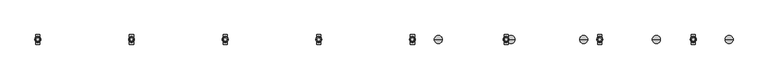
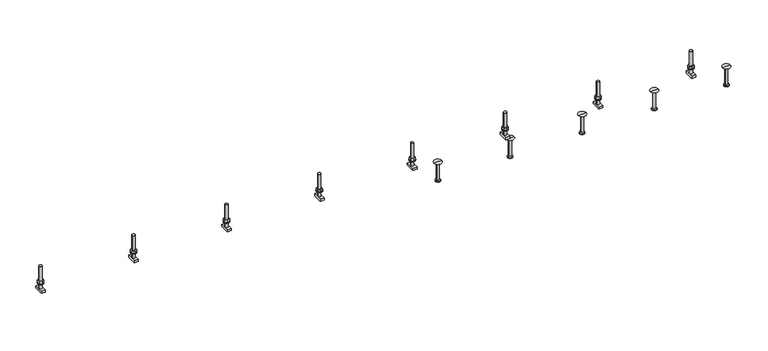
"""IFC4 building model written with IfcOpenShell, lengths in millimetres: fastener geometry, JTA-W JORDAHL® AnchorChannels : JTA-W L=3000 mm."""

from ifc_helpers import new_model, si_unit, point, frame, frame_2d, origin, place, context, project, spatial, polyline, circle_curve, trimmed, segment, composite_curve, outline, extrude, source, transform, mapped, element, save
from ifc_brep_helpers import plane_surface, cylinder_surface, revolved_surface, advanced_brep


def fastener_619edde3(model_context):
    return source(origin(), model_context, "Body", "SolidModel", [
        extrude(outline(polyline([(2608.3333333, 9.2376043), (2616.3333333, 4.6188022), (2616.3333333, -4.6188022), (2608.3333333, -9.2376043), (2600.3333333, -4.6188022), (2600.3333333, 4.6188022), (2608.3333333, 9.2376043)]), holes=[composite_curve([segment(trimmed(circle_curve(frame_2d((2608.3333333, 0.0)), 5.0), [point((2603.3333333, 0.0))], [point((2613.3333333, 0.0))], True, "CARTESIAN"), True, "CONTINUOUS"), segment(trimmed(circle_curve(frame_2d((2608.3333333, 0.0)), 5.0), [point((2613.3333333, 0.0))], [point((2603.3333333, 0.0))], True, "CARTESIAN"), True, "CONTINUOUS")], self_intersect=False)]), frame((0.0, 0.0, 17.0), z_axis=(0.0, 0.0, 1.0), x_axis=(1.0, 0.0, 0.0)), (0.0, 0.0, 1.0), 8.4),
        extrude(outline(composite_curve([segment(trimmed(circle_curve(frame_2d((2608.3333333, 0.0)), 10.0), [point((2598.3333333, 0.0))], [point((2618.3333333, 0.0))], False, "CARTESIAN"), True, "CONTINUOUS"), segment(trimmed(circle_curve(frame_2d((2608.3333333, 0.0)), 10.0), [point((2618.3333333, 0.0))], [point((2598.3333333, 0.0))], False, "CARTESIAN"), True, "CONTINUOUS")], self_intersect=False), holes=[composite_curve([segment(trimmed(circle_curve(frame_2d((2608.3333333, 0.0)), 5.25), [point((2603.0833333, 0.0))], [point((2613.5833333, 0.0))], True, "CARTESIAN"), True, "CONTINUOUS"), segment(trimmed(circle_curve(frame_2d((2608.3333333, 0.0)), 5.25), [point((2613.5833333, 0.0))], [point((2603.0833333, 0.0))], True, "CARTESIAN"), True, "CONTINUOUS")], self_intersect=False)]), frame((0.0, 0.0, 15.0), z_axis=(0.0, 0.0, 1.0), x_axis=(1.0, 0.0, 0.0)), (0.0, 0.0, 1.0), 2.0),
        extrude(outline(polyline([(2291.6666667, 9.2376043), (2299.6666667, 4.6188022), (2299.6666667, -4.6188022), (2291.6666667, -9.2376043), (2283.6666667, -4.6188022), (2283.6666667, 4.6188022), (2291.6666667, 9.2376043)]), holes=[composite_curve([segment(trimmed(circle_curve(frame_2d((2291.6666667, 0.0)), 5.0), [point((2286.6666667, 0.0))], [point((2296.6666667, 0.0))], True, "CARTESIAN"), True, "CONTINUOUS"), segment(trimmed(circle_curve(frame_2d((2291.6666667, 0.0)), 5.0), [point((2296.6666667, 0.0))], [point((2286.6666667, 0.0))], True, "CARTESIAN"), True, "CONTINUOUS")], self_intersect=False)]), frame((0.0, 0.0, 17.0), z_axis=(0.0, 0.0, 1.0), x_axis=(1.0, 0.0, 0.0)), (0.0, 0.0, 1.0), 8.4),
        extrude(outline(composite_curve([segment(trimmed(circle_curve(frame_2d((2291.6666667, 0.0)), 10.0), [point((2281.6666667, 0.0))], [point((2301.6666667, 0.0))], False, "CARTESIAN"), True, "CONTINUOUS"), segment(trimmed(circle_curve(frame_2d((2291.6666667, 0.0)), 10.0), [point((2301.6666667, 0.0))], [point((2281.6666667, 0.0))], False, "CARTESIAN"), True, "CONTINUOUS")], self_intersect=False), holes=[composite_curve([segment(trimmed(circle_curve(frame_2d((2291.6666667, 0.0)), 5.25), [point((2286.4166667, 0.0))], [point((2296.9166667, 0.0))], True, "CARTESIAN"), True, "CONTINUOUS"), segment(trimmed(circle_curve(frame_2d((2291.6666667, 0.0)), 5.25), [point((2296.9166667, 0.0))], [point((2286.4166667, 0.0))], True, "CARTESIAN"), True, "CONTINUOUS")], self_intersect=False)]), frame((0.0, 0.0, 15.0), z_axis=(0.0, 0.0, 1.0), x_axis=(1.0, 0.0, 0.0)), (0.0, 0.0, 1.0), 2.0),
        extrude(outline(polyline([(1975.0, 9.2376043), (1983.0, 4.6188022), (1983.0, -4.6188022), (1975.0, -9.2376043), (1967.0, -4.6188022), (1967.0, 4.6188022), (1975.0, 9.2376043)]), holes=[composite_curve([segment(trimmed(circle_curve(frame_2d((1975.0, 0.0)), 5.0), [point((1970.0, 0.0))], [point((1980.0, 0.0))], True, "CARTESIAN"), True, "CONTINUOUS"), segment(trimmed(circle_curve(frame_2d((1975.0, 0.0)), 5.0), [point((1980.0, 0.0))], [point((1970.0, 0.0))], True, "CARTESIAN"), True, "CONTINUOUS")], self_intersect=False)]), frame((0.0, 0.0, 17.0), z_axis=(0.0, 0.0, 1.0), x_axis=(1.0, 0.0, 0.0)), (0.0, 0.0, 1.0), 8.4),
        extrude(outline(composite_curve([segment(trimmed(circle_curve(frame_2d((1975.0, 0.0)), 10.0), [point((1965.0, 0.0))], [point((1985.0, 0.0))], False, "CARTESIAN"), True, "CONTINUOUS"), segment(trimmed(circle_curve(frame_2d((1975.0, 0.0)), 10.0), [point((1985.0, 0.0))], [point((1965.0, 0.0))], False, "CARTESIAN"), True, "CONTINUOUS")], self_intersect=False), holes=[composite_curve([segment(trimmed(circle_curve(frame_2d((1975.0, 0.0)), 5.25), [point((1969.75, 0.0))], [point((1980.25, 0.0))], True, "CARTESIAN"), True, "CONTINUOUS"), segment(trimmed(circle_curve(frame_2d((1975.0, 0.0)), 5.25), [point((1980.25, 0.0))], [point((1969.75, 0.0))], True, "CARTESIAN"), True, "CONTINUOUS")], self_intersect=False)]), frame((0.0, 0.0, 15.0), z_axis=(0.0, 0.0, 1.0), x_axis=(1.0, 0.0, 0.0)), (0.0, 0.0, 1.0), 2.0),
        extrude(outline(polyline([(1658.3333333, 9.2376043), (1666.3333333, 4.6188022), (1666.3333333, -4.6188022), (1658.3333333, -9.2376043), (1650.3333333, -4.6188022), (1650.3333333, 4.6188022), (1658.3333333, 9.2376043)]), holes=[composite_curve([segment(trimmed(circle_curve(frame_2d((1658.3333333, 0.0)), 5.0), [point((1653.3333333, 0.0))], [point((1663.3333333, 0.0))], True, "CARTESIAN"), True, "CONTINUOUS"), segment(trimmed(circle_curve(frame_2d((1658.3333333, 0.0)), 5.0), [point((1663.3333333, 0.0))], [point((1653.3333333, 0.0))], True, "CARTESIAN"), True, "CONTINUOUS")], self_intersect=False)]), frame((0.0, 0.0, 17.0), z_axis=(0.0, 0.0, 1.0), x_axis=(1.0, 0.0, 0.0)), (0.0, 0.0, 1.0), 8.4),
        extrude(outline(composite_curve([segment(trimmed(circle_curve(frame_2d((1658.3333333, 0.0)), 10.0), [point((1648.3333333, 0.0))], [point((1668.3333333, 0.0))], False, "CARTESIAN"), True, "CONTINUOUS"), segment(trimmed(circle_curve(frame_2d((1658.3333333, 0.0)), 10.0), [point((1668.3333333, 0.0))], [point((1648.3333333, 0.0))], False, "CARTESIAN"), True, "CONTINUOUS")], self_intersect=False), holes=[composite_curve([segment(trimmed(circle_curve(frame_2d((1658.3333333, 0.0)), 5.25), [point((1653.0833333, 0.0))], [point((1663.5833333, 0.0))], True, "CARTESIAN"), True, "CONTINUOUS"), segment(trimmed(circle_curve(frame_2d((1658.3333333, 0.0)), 5.25), [point((1663.5833333, 0.0))], [point((1653.0833333, 0.0))], True, "CARTESIAN"), True, "CONTINUOUS")], self_intersect=False)]), frame((0.0, 0.0, 15.0), z_axis=(0.0, 0.0, 1.0), x_axis=(1.0, 0.0, 0.0)), (0.0, 0.0, 1.0), 2.0),
        extrude(outline(polyline([(1341.6666667, 9.2376043), (1349.6666667, 4.6188022), (1349.6666667, -4.6188022), (1341.6666667, -9.2376043), (1333.6666667, -4.6188022), (1333.6666667, 4.6188022), (1341.6666667, 9.2376043)]), holes=[composite_curve([segment(trimmed(circle_curve(frame_2d((1341.6666667, 0.0)), 5.0), [point((1336.6666667, 0.0))], [point((1346.6666667, 0.0))], True, "CARTESIAN"), True, "CONTINUOUS"), segment(trimmed(circle_curve(frame_2d((1341.6666667, 0.0)), 5.0), [point((1346.6666667, 0.0))], [point((1336.6666667, 0.0))], True, "CARTESIAN"), True, "CONTINUOUS")], self_intersect=False)]), frame((0.0, 0.0, 17.0), z_axis=(0.0, 0.0, 1.0), x_axis=(1.0, 0.0, 0.0)), (0.0, 0.0, 1.0), 8.4),
        extrude(outline(composite_curve([segment(trimmed(circle_curve(frame_2d((1341.6666667, 0.0)), 10.0), [point((1331.6666667, 0.0))], [point((1351.6666667, 0.0))], False, "CARTESIAN"), True, "CONTINUOUS"), segment(trimmed(circle_curve(frame_2d((1341.6666667, 0.0)), 10.0), [point((1351.6666667, 0.0))], [point((1331.6666667, 0.0))], False, "CARTESIAN"), True, "CONTINUOUS")], self_intersect=False), holes=[composite_curve([segment(trimmed(circle_curve(frame_2d((1341.6666667, 0.0)), 5.25), [point((1336.4166667, 0.0))], [point((1346.9166667, 0.0))], True, "CARTESIAN"), True, "CONTINUOUS"), segment(trimmed(circle_curve(frame_2d((1341.6666667, 0.0)), 5.25), [point((1346.9166667, 0.0))], [point((1336.4166667, 0.0))], True, "CARTESIAN"), True, "CONTINUOUS")], self_intersect=False)]), frame((0.0, 0.0, 15.0), z_axis=(0.0, 0.0, 1.0), x_axis=(1.0, 0.0, 0.0)), (0.0, 0.0, 1.0), 2.0),
        extrude(outline(polyline([(1025.0, 9.2376043), (1033.0, 4.6188022), (1033.0, -4.6188022), (1025.0, -9.2376043), (1017.0, -4.6188022), (1017.0, 4.6188022), (1025.0, 9.2376043)]), holes=[composite_curve([segment(trimmed(circle_curve(frame_2d((1025.0, 0.0)), 5.0), [point((1020.0, 0.0))], [point((1030.0, 0.0))], True, "CARTESIAN"), True, "CONTINUOUS"), segment(trimmed(circle_curve(frame_2d((1025.0, 0.0)), 5.0), [point((1030.0, 0.0))], [point((1020.0, 0.0))], True, "CARTESIAN"), True, "CONTINUOUS")], self_intersect=False)]), frame((0.0, 0.0, 17.0), z_axis=(0.0, 0.0, 1.0), x_axis=(1.0, 0.0, 0.0)), (0.0, 0.0, 1.0), 8.4),
        extrude(outline(composite_curve([segment(trimmed(circle_curve(frame_2d((1025.0, 0.0)), 10.0), [point((1015.0, 0.0))], [point((1035.0, 0.0))], False, "CARTESIAN"), True, "CONTINUOUS"), segment(trimmed(circle_curve(frame_2d((1025.0, 0.0)), 10.0), [point((1035.0, 0.0))], [point((1015.0, 0.0))], False, "CARTESIAN"), True, "CONTINUOUS")], self_intersect=False), holes=[composite_curve([segment(trimmed(circle_curve(frame_2d((1025.0, 0.0)), 5.25), [point((1019.75, 0.0))], [point((1030.25, 0.0))], True, "CARTESIAN"), True, "CONTINUOUS"), segment(trimmed(circle_curve(frame_2d((1025.0, 0.0)), 5.25), [point((1030.25, 0.0))], [point((1019.75, 0.0))], True, "CARTESIAN"), True, "CONTINUOUS")], self_intersect=False)]), frame((0.0, 0.0, 15.0), z_axis=(0.0, 0.0, 1.0), x_axis=(1.0, 0.0, 0.0)), (0.0, 0.0, 1.0), 2.0),
        extrude(outline(polyline([(708.3333333, 9.2376043), (716.3333333, 4.6188022), (716.3333333, -4.6188022), (708.3333333, -9.2376043), (700.3333333, -4.6188022), (700.3333333, 4.6188022), (708.3333333, 9.2376043)]), holes=[composite_curve([segment(trimmed(circle_curve(frame_2d((708.3333333, 0.0)), 5.0), [point((703.3333333, 0.0))], [point((713.3333333, 0.0))], True, "CARTESIAN"), True, "CONTINUOUS"), segment(trimmed(circle_curve(frame_2d((708.3333333, 0.0)), 5.0), [point((713.3333333, 0.0))], [point((703.3333333, 0.0))], True, "CARTESIAN"), True, "CONTINUOUS")], self_intersect=False)]), frame((0.0, 0.0, 17.0), z_axis=(0.0, 0.0, 1.0), x_axis=(1.0, 0.0, 0.0)), (0.0, 0.0, 1.0), 8.4),
        extrude(outline(composite_curve([segment(trimmed(circle_curve(frame_2d((708.3333333, 0.0)), 10.0), [point((698.3333333, 0.0))], [point((718.3333333, 0.0))], False, "CARTESIAN"), True, "CONTINUOUS"), segment(trimmed(circle_curve(frame_2d((708.3333333, 0.0)), 10.0), [point((718.3333333, 0.0))], [point((698.3333333, 0.0))], False, "CARTESIAN"), True, "CONTINUOUS")], self_intersect=False), holes=[composite_curve([segment(trimmed(circle_curve(frame_2d((708.3333333, 0.0)), 5.25), [point((703.0833333, 0.0))], [point((713.5833333, 0.0))], True, "CARTESIAN"), True, "CONTINUOUS"), segment(trimmed(circle_curve(frame_2d((708.3333333, 0.0)), 5.25), [point((713.5833333, 0.0))], [point((703.0833333, 0.0))], True, "CARTESIAN"), True, "CONTINUOUS")], self_intersect=False)]), frame((0.0, 0.0, 15.0), z_axis=(0.0, 0.0, 1.0), x_axis=(1.0, 0.0, 0.0)), (0.0, 0.0, 1.0), 2.0),
        extrude(outline(polyline([(391.6666667, 9.2376043), (399.6666667, 4.6188022), (399.6666667, -4.6188022), (391.6666667, -9.2376043), (383.6666667, -4.6188022), (383.6666667, 4.6188022), (391.6666667, 9.2376043)]), holes=[composite_curve([segment(trimmed(circle_curve(frame_2d((391.6666667, 0.0)), 5.0), [point((386.6666667, 0.0))], [point((396.6666667, 0.0))], True, "CARTESIAN"), True, "CONTINUOUS"), segment(trimmed(circle_curve(frame_2d((391.6666667, 0.0)), 5.0), [point((396.6666667, 0.0))], [point((386.6666667, 0.0))], True, "CARTESIAN"), True, "CONTINUOUS")], self_intersect=False)]), frame((0.0, 0.0, 17.0), z_axis=(0.0, 0.0, 1.0), x_axis=(1.0, 0.0, 0.0)), (0.0, 0.0, 1.0), 8.4),
        extrude(outline(composite_curve([segment(trimmed(circle_curve(frame_2d((391.6666667, 0.0)), 10.0), [point((381.6666667, 0.0))], [point((401.6666667, 0.0))], False, "CARTESIAN"), True, "CONTINUOUS"), segment(trimmed(circle_curve(frame_2d((391.6666667, 0.0)), 10.0), [point((401.6666667, 0.0))], [point((381.6666667, 0.0))], False, "CARTESIAN"), True, "CONTINUOUS")], self_intersect=False), holes=[composite_curve([segment(trimmed(circle_curve(frame_2d((391.6666667, 0.0)), 5.25), [point((386.4166667, 0.0))], [point((396.9166667, 0.0))], True, "CARTESIAN"), True, "CONTINUOUS"), segment(trimmed(circle_curve(frame_2d((391.6666667, 0.0)), 5.25), [point((396.9166667, 0.0))], [point((386.4166667, 0.0))], True, "CARTESIAN"), True, "CONTINUOUS")], self_intersect=False)]), frame((0.0, 0.0, 15.0), z_axis=(0.0, 0.0, 1.0), x_axis=(1.0, 0.0, 0.0)), (0.0, 0.0, 1.0), 2.0),
        advanced_brep(
        [(2615.3333333, 16.25, -3.0), (2615.3333333, -16.25, -3.0), (2615.3333333, -16.25, -11.0), (2615.3333333, 16.25, -11.0), (2601.3333333, 16.25, -3.0), (2601.3333333, 16.25, -11.0), (2601.3333333, -16.25, -11.0), (2601.3333333, -16.25, -3.0), (2613.3333333, 0.0, -3.0), (2603.3333333, 0.0, -3.0), (2603.3333333, 0.0, 77.0), (2613.3333333, 0.0, 77.0)],
        [
            (0, 1),
            (1, 2),
            (2, 3),
            (3, 0),
            (4, 5),
            (5, 6),
            (6, 7),
            (7, 4),
            (0, 4),
            (7, 1),
            (8, 9, circle_curve(frame((2608.3333333, 0.0, -3.0), z_axis=(0.0, 0.0, -1.0), x_axis=(1.0, 0.0, 0.0)), 5.0)),
            (9, 8, circle_curve(frame((2608.3333333, 0.0, -3.0), z_axis=(0.0, 0.0, -1.0), x_axis=(1.0, 0.0, 0.0)), 5.0)),
            (6, 2),
            (5, 3),
            (10, 11, circle_curve(frame((2608.3333333, 0.0, 77.0), z_axis=(0.0, 0.0, 1.0), x_axis=(1.0, 0.0, 0.0)), 5.0)),
            (11, 10, circle_curve(frame((2608.3333333, 0.0, 77.0), z_axis=(0.0, 0.0, 1.0), x_axis=(1.0, 0.0, 0.0)), 5.0)),
            (10, 9),
            (8, 11),
        ],
        [
            plane_surface(frame((2615.3333333, -16.25, -3.0), z_axis=(1.0, 0.0, 0.0), x_axis=(0.0, -1.0, 0.0))),
            plane_surface(frame((2601.3333333, -16.25, -3.0), z_axis=(-1.0, 0.0, 0.0), x_axis=(0.0, 1.0, 0.0))),
            plane_surface(frame((2615.3333333, 16.25, -3.0), z_axis=(0.0, 0.0, 1.0), x_axis=(-1.0, 0.0, 0.0))),
            plane_surface(frame((2615.3333333, -16.25, -3.0), z_axis=(0.0, -1.0, 0.0), x_axis=(-1.0, 0.0, 0.0))),
            plane_surface(frame((2615.3333333, -16.25, -11.0), z_axis=(0.0, 0.0, -1.0), x_axis=(-1.0, 0.0, 0.0))),
            plane_surface(frame((2615.3333333, 16.25, -11.0), z_axis=(0.0, 1.0, 0.0), x_axis=(-1.0, 0.0, 0.0))),
            plane_surface(frame((2613.3333333, 0.0, 77.0), z_axis=(0.0, 0.0, 1.0), x_axis=(0.0, 1.0, 0.0))),
            cylinder_surface(frame((2608.3333333, 0.0, -3.0), z_axis=(0.0, 0.0, 1.0), x_axis=(1.0, 0.0, 0.0)), 5.0),
        ],
        [
            (0, [[1, 2, 3, 4]]),
            (1, [[5, 6, 7, 8]]),
            (2, [[-1, 9, -8, 10], [11, 12]]),
            (3, [[-2, -10, -7, 13]]),
            (4, [[-3, -13, -6, 14]]),
            (5, [[-4, -14, -5, -9]]),
            (6, [[15, 16]]),
            (7, [[-15, 17, -11, 18]]),
            (7, [[-16, -18, -12, -17]]),
        ],
    ),
        advanced_brep(
        [(2298.6666667, 16.25, -3.0), (2298.6666667, -16.25, -3.0), (2298.6666667, -16.25, -11.0), (2298.6666667, 16.25, -11.0), (2284.6666667, 16.25, -3.0), (2284.6666667, 16.25, -11.0), (2284.6666667, -16.25, -11.0), (2284.6666667, -16.25, -3.0), (2296.6666667, 0.0, -3.0), (2286.6666667, 0.0, -3.0), (2286.6666667, 0.0, 77.0), (2296.6666667, 0.0, 77.0)],
        [
            (0, 1),
            (1, 2),
            (2, 3),
            (3, 0),
            (4, 5),
            (5, 6),
            (6, 7),
            (7, 4),
            (0, 4),
            (7, 1),
            (8, 9, circle_curve(frame((2291.6666667, 0.0, -3.0), z_axis=(0.0, 0.0, -1.0), x_axis=(1.0, 0.0, 0.0)), 5.0)),
            (9, 8, circle_curve(frame((2291.6666667, 0.0, -3.0), z_axis=(0.0, 0.0, -1.0), x_axis=(1.0, 0.0, 0.0)), 5.0)),
            (6, 2),
            (5, 3),
            (10, 11, circle_curve(frame((2291.6666667, 0.0, 77.0), z_axis=(0.0, 0.0, 1.0), x_axis=(1.0, 0.0, 0.0)), 5.0)),
            (11, 10, circle_curve(frame((2291.6666667, 0.0, 77.0), z_axis=(0.0, 0.0, 1.0), x_axis=(1.0, 0.0, 0.0)), 5.0)),
            (10, 9),
            (8, 11),
        ],
        [
            plane_surface(frame((2298.6666667, -16.25, -3.0), z_axis=(1.0, 0.0, 0.0), x_axis=(0.0, -1.0, 0.0))),
            plane_surface(frame((2284.6666667, -16.25, -3.0), z_axis=(-1.0, 0.0, 0.0), x_axis=(0.0, 1.0, 0.0))),
            plane_surface(frame((2298.6666667, 16.25, -3.0), z_axis=(0.0, 0.0, 1.0), x_axis=(-1.0, 0.0, 0.0))),
            plane_surface(frame((2298.6666667, -16.25, -3.0), z_axis=(0.0, -1.0, 0.0), x_axis=(-1.0, 0.0, 0.0))),
            plane_surface(frame((2298.6666667, -16.25, -11.0), z_axis=(0.0, 0.0, -1.0), x_axis=(-1.0, 0.0, 0.0))),
            plane_surface(frame((2298.6666667, 16.25, -11.0), z_axis=(0.0, 1.0, 0.0), x_axis=(-1.0, 0.0, 0.0))),
            plane_surface(frame((2296.6666667, 0.0, 77.0), z_axis=(0.0, 0.0, 1.0), x_axis=(0.0, 1.0, 0.0))),
            cylinder_surface(frame((2291.6666667, 0.0, -3.0), z_axis=(0.0, 0.0, 1.0), x_axis=(1.0, 0.0, 0.0)), 5.0),
        ],
        [
            (0, [[1, 2, 3, 4]]),
            (1, [[5, 6, 7, 8]]),
            (2, [[-1, 9, -8, 10], [11, 12]]),
            (3, [[-2, -10, -7, 13]]),
            (4, [[-3, -13, -6, 14]]),
            (5, [[-4, -14, -5, -9]]),
            (6, [[15, 16]]),
            (7, [[-15, 17, -11, 18]]),
            (7, [[-16, -18, -12, -17]]),
        ],
    ),
        advanced_brep(
        [(1982.0, 16.25, -3.0), (1982.0, -16.25, -3.0), (1982.0, -16.25, -11.0), (1982.0, 16.25, -11.0), (1968.0, 16.25, -3.0), (1968.0, 16.25, -11.0), (1968.0, -16.25, -11.0), (1968.0, -16.25, -3.0), (1980.0, 0.0, -3.0), (1970.0, 0.0, -3.0), (1970.0, 0.0, 77.0), (1980.0, 0.0, 77.0)],
        [
            (0, 1),
            (1, 2),
            (2, 3),
            (3, 0),
            (4, 5),
            (5, 6),
            (6, 7),
            (7, 4),
            (0, 4),
            (7, 1),
            (8, 9, circle_curve(frame((1975.0, 0.0, -3.0), z_axis=(0.0, 0.0, -1.0), x_axis=(1.0, 0.0, 0.0)), 5.0)),
            (9, 8, circle_curve(frame((1975.0, 0.0, -3.0), z_axis=(0.0, 0.0, -1.0), x_axis=(1.0, 0.0, 0.0)), 5.0)),
            (6, 2),
            (5, 3),
            (10, 11, circle_curve(frame((1975.0, 0.0, 77.0), z_axis=(0.0, 0.0, 1.0), x_axis=(1.0, 0.0, 0.0)), 5.0)),
            (11, 10, circle_curve(frame((1975.0, 0.0, 77.0), z_axis=(0.0, 0.0, 1.0), x_axis=(1.0, 0.0, 0.0)), 5.0)),
            (10, 9),
            (8, 11),
        ],
        [
            plane_surface(frame((1982.0, -16.25, -3.0), z_axis=(1.0, 0.0, 0.0), x_axis=(0.0, -1.0, 0.0))),
            plane_surface(frame((1968.0, -16.25, -3.0), z_axis=(-1.0, 0.0, 0.0), x_axis=(0.0, 1.0, 0.0))),
            plane_surface(frame((1982.0, 16.25, -3.0), z_axis=(0.0, 0.0, 1.0), x_axis=(-1.0, 0.0, 0.0))),
            plane_surface(frame((1982.0, -16.25, -3.0), z_axis=(0.0, -1.0, 0.0), x_axis=(-1.0, 0.0, 0.0))),
            plane_surface(frame((1982.0, -16.25, -11.0), z_axis=(0.0, 0.0, -1.0), x_axis=(-1.0, 0.0, 0.0))),
            plane_surface(frame((1982.0, 16.25, -11.0), z_axis=(0.0, 1.0, 0.0), x_axis=(-1.0, 0.0, 0.0))),
            plane_surface(frame((1980.0, 0.0, 77.0), z_axis=(0.0, 0.0, 1.0), x_axis=(0.0, 1.0, 0.0))),
            cylinder_surface(frame((1975.0, 0.0, -3.0), z_axis=(0.0, 0.0, 1.0), x_axis=(1.0, 0.0, 0.0)), 5.0),
        ],
        [
            (0, [[1, 2, 3, 4]]),
            (1, [[5, 6, 7, 8]]),
            (2, [[-1, 9, -8, 10], [11, 12]]),
            (3, [[-2, -10, -7, 13]]),
            (4, [[-3, -13, -6, 14]]),
            (5, [[-4, -14, -5, -9]]),
            (6, [[15, 16]]),
            (7, [[-15, 17, -11, 18]]),
            (7, [[-16, -18, -12, -17]]),
        ],
    ),
        advanced_brep(
        [(1665.3333333, 16.25, -3.0), (1665.3333333, -16.25, -3.0), (1665.3333333, -16.25, -11.0), (1665.3333333, 16.25, -11.0), (1651.3333333, 16.25, -3.0), (1651.3333333, 16.25, -11.0), (1651.3333333, -16.25, -11.0), (1651.3333333, -16.25, -3.0), (1663.3333333, 0.0, -3.0), (1653.3333333, 0.0, -3.0), (1653.3333333, 0.0, 77.0), (1663.3333333, 0.0, 77.0)],
        [
            (0, 1),
            (1, 2),
            (2, 3),
            (3, 0),
            (4, 5),
            (5, 6),
            (6, 7),
            (7, 4),
            (0, 4),
            (7, 1),
            (8, 9, circle_curve(frame((1658.3333333, 0.0, -3.0), z_axis=(0.0, 0.0, -1.0), x_axis=(1.0, 0.0, 0.0)), 5.0)),
            (9, 8, circle_curve(frame((1658.3333333, 0.0, -3.0), z_axis=(0.0, 0.0, -1.0), x_axis=(1.0, 0.0, 0.0)), 5.0)),
            (6, 2),
            (5, 3),
            (10, 11, circle_curve(frame((1658.3333333, 0.0, 77.0), z_axis=(0.0, 0.0, 1.0), x_axis=(1.0, 0.0, 0.0)), 5.0)),
            (11, 10, circle_curve(frame((1658.3333333, 0.0, 77.0), z_axis=(0.0, 0.0, 1.0), x_axis=(1.0, 0.0, 0.0)), 5.0)),
            (10, 9),
            (8, 11),
        ],
        [
            plane_surface(frame((1665.3333333, -16.25, -3.0), z_axis=(1.0, 0.0, 0.0), x_axis=(0.0, -1.0, 0.0))),
            plane_surface(frame((1651.3333333, -16.25, -3.0), z_axis=(-1.0, 0.0, 0.0), x_axis=(0.0, 1.0, 0.0))),
            plane_surface(frame((1665.3333333, 16.25, -3.0), z_axis=(0.0, 0.0, 1.0), x_axis=(-1.0, 0.0, 0.0))),
            plane_surface(frame((1665.3333333, -16.25, -3.0), z_axis=(0.0, -1.0, 0.0), x_axis=(-1.0, 0.0, 0.0))),
            plane_surface(frame((1665.3333333, -16.25, -11.0), z_axis=(0.0, 0.0, -1.0), x_axis=(-1.0, 0.0, 0.0))),
            plane_surface(frame((1665.3333333, 16.25, -11.0), z_axis=(0.0, 1.0, 0.0), x_axis=(-1.0, 0.0, 0.0))),
            plane_surface(frame((1663.3333333, 0.0, 77.0), z_axis=(0.0, 0.0, 1.0), x_axis=(0.0, 1.0, 0.0))),
            cylinder_surface(frame((1658.3333333, 0.0, -3.0), z_axis=(0.0, 0.0, 1.0), x_axis=(1.0, 0.0, 0.0)), 5.0),
        ],
        [
            (0, [[1, 2, 3, 4]]),
            (1, [[5, 6, 7, 8]]),
            (2, [[-1, 9, -8, 10], [11, 12]]),
            (3, [[-2, -10, -7, 13]]),
            (4, [[-3, -13, -6, 14]]),
            (5, [[-4, -14, -5, -9]]),
            (6, [[15, 16]]),
            (7, [[-15, 17, -11, 18]]),
            (7, [[-16, -18, -12, -17]]),
        ],
    ),
        advanced_brep(
        [(1348.6666667, 16.25, -3.0), (1348.6666667, -16.25, -3.0), (1348.6666667, -16.25, -11.0), (1348.6666667, 16.25, -11.0), (1334.6666667, 16.25, -3.0), (1334.6666667, 16.25, -11.0), (1334.6666667, -16.25, -11.0), (1334.6666667, -16.25, -3.0), (1346.6666667, 0.0, -3.0), (1336.6666667, 0.0, -3.0), (1336.6666667, 0.0, 77.0), (1346.6666667, 0.0, 77.0)],
        [
            (0, 1),
            (1, 2),
            (2, 3),
            (3, 0),
            (4, 5),
            (5, 6),
            (6, 7),
            (7, 4),
            (0, 4),
            (7, 1),
            (8, 9, circle_curve(frame((1341.6666667, 0.0, -3.0), z_axis=(0.0, 0.0, -1.0), x_axis=(1.0, 0.0, 0.0)), 5.0)),
            (9, 8, circle_curve(frame((1341.6666667, 0.0, -3.0), z_axis=(0.0, 0.0, -1.0), x_axis=(1.0, 0.0, 0.0)), 5.0)),
            (6, 2),
            (5, 3),
            (10, 11, circle_curve(frame((1341.6666667, 0.0, 77.0), z_axis=(0.0, 0.0, 1.0), x_axis=(1.0, 0.0, 0.0)), 5.0)),
            (11, 10, circle_curve(frame((1341.6666667, 0.0, 77.0), z_axis=(0.0, 0.0, 1.0), x_axis=(1.0, 0.0, 0.0)), 5.0)),
            (10, 9),
            (8, 11),
        ],
        [
            plane_surface(frame((1348.6666667, -16.25, -3.0), z_axis=(1.0, 0.0, 0.0), x_axis=(0.0, -1.0, 0.0))),
            plane_surface(frame((1334.6666667, -16.25, -3.0), z_axis=(-1.0, 0.0, 0.0), x_axis=(0.0, 1.0, 0.0))),
            plane_surface(frame((1348.6666667, 16.25, -3.0), z_axis=(0.0, 0.0, 1.0), x_axis=(-1.0, 0.0, 0.0))),
            plane_surface(frame((1348.6666667, -16.25, -3.0), z_axis=(0.0, -1.0, 0.0), x_axis=(-1.0, 0.0, 0.0))),
            plane_surface(frame((1348.6666667, -16.25, -11.0), z_axis=(0.0, 0.0, -1.0), x_axis=(-1.0, 0.0, 0.0))),
            plane_surface(frame((1348.6666667, 16.25, -11.0), z_axis=(0.0, 1.0, 0.0), x_axis=(-1.0, 0.0, 0.0))),
            plane_surface(frame((1346.6666667, 0.0, 77.0), z_axis=(0.0, 0.0, 1.0), x_axis=(0.0, 1.0, 0.0))),
            cylinder_surface(frame((1341.6666667, 0.0, -3.0), z_axis=(0.0, 0.0, 1.0), x_axis=(1.0, 0.0, 0.0)), 5.0),
        ],
        [
            (0, [[1, 2, 3, 4]]),
            (1, [[5, 6, 7, 8]]),
            (2, [[-1, 9, -8, 10], [11, 12]]),
            (3, [[-2, -10, -7, 13]]),
            (4, [[-3, -13, -6, 14]]),
            (5, [[-4, -14, -5, -9]]),
            (6, [[15, 16]]),
            (7, [[-15, 17, -11, 18]]),
            (7, [[-16, -18, -12, -17]]),
        ],
    ),
        advanced_brep(
        [(1032.0, 16.25, -3.0), (1032.0, -16.25, -3.0), (1032.0, -16.25, -11.0), (1032.0, 16.25, -11.0), (1018.0, 16.25, -3.0), (1018.0, 16.25, -11.0), (1018.0, -16.25, -11.0), (1018.0, -16.25, -3.0), (1030.0, 0.0, -3.0), (1020.0, 0.0, -3.0), (1020.0, 0.0, 77.0), (1030.0, 0.0, 77.0)],
        [
            (0, 1),
            (1, 2),
            (2, 3),
            (3, 0),
            (4, 5),
            (5, 6),
            (6, 7),
            (7, 4),
            (0, 4),
            (7, 1),
            (8, 9, circle_curve(frame((1025.0, 0.0, -3.0), z_axis=(0.0, 0.0, -1.0), x_axis=(1.0, 0.0, 0.0)), 5.0)),
            (9, 8, circle_curve(frame((1025.0, 0.0, -3.0), z_axis=(0.0, 0.0, -1.0), x_axis=(1.0, 0.0, 0.0)), 5.0)),
            (6, 2),
            (5, 3),
            (10, 11, circle_curve(frame((1025.0, 0.0, 77.0), z_axis=(0.0, 0.0, 1.0), x_axis=(1.0, 0.0, 0.0)), 5.0)),
            (11, 10, circle_curve(frame((1025.0, 0.0, 77.0), z_axis=(0.0, 0.0, 1.0), x_axis=(1.0, 0.0, 0.0)), 5.0)),
            (10, 9),
            (8, 11),
        ],
        [
            plane_surface(frame((1032.0, -16.25, -3.0), z_axis=(1.0, 0.0, 0.0), x_axis=(0.0, -1.0, 0.0))),
            plane_surface(frame((1018.0, -16.25, -3.0), z_axis=(-1.0, 0.0, 0.0), x_axis=(0.0, 1.0, 0.0))),
            plane_surface(frame((1032.0, 16.25, -3.0), z_axis=(0.0, 0.0, 1.0), x_axis=(-1.0, 0.0, 0.0))),
            plane_surface(frame((1032.0, -16.25, -3.0), z_axis=(0.0, -1.0, 0.0), x_axis=(-1.0, 0.0, 0.0))),
            plane_surface(frame((1032.0, -16.25, -11.0), z_axis=(0.0, 0.0, -1.0), x_axis=(-1.0, 0.0, 0.0))),
            plane_surface(frame((1032.0, 16.25, -11.0), z_axis=(0.0, 1.0, 0.0), x_axis=(-1.0, 0.0, 0.0))),
            plane_surface(frame((1030.0, 0.0, 77.0), z_axis=(0.0, 0.0, 1.0), x_axis=(0.0, 1.0, 0.0))),
            cylinder_surface(frame((1025.0, 0.0, -3.0), z_axis=(0.0, 0.0, 1.0), x_axis=(1.0, 0.0, 0.0)), 5.0),
        ],
        [
            (0, [[1, 2, 3, 4]]),
            (1, [[5, 6, 7, 8]]),
            (2, [[-1, 9, -8, 10], [11, 12]]),
            (3, [[-2, -10, -7, 13]]),
            (4, [[-3, -13, -6, 14]]),
            (5, [[-4, -14, -5, -9]]),
            (6, [[15, 16]]),
            (7, [[-15, 17, -11, 18]]),
            (7, [[-16, -18, -12, -17]]),
        ],
    ),
        advanced_brep(
        [(715.3333333, 16.25, -3.0), (715.3333333, -16.25, -3.0), (715.3333333, -16.25, -11.0), (715.3333333, 16.25, -11.0), (701.3333333, 16.25, -3.0), (701.3333333, 16.25, -11.0), (701.3333333, -16.25, -11.0), (701.3333333, -16.25, -3.0), (713.3333333, 0.0, -3.0), (703.3333333, 0.0, -3.0), (703.3333333, 0.0, 77.0), (713.3333333, 0.0, 77.0)],
        [
            (0, 1),
            (1, 2),
            (2, 3),
            (3, 0),
            (4, 5),
            (5, 6),
            (6, 7),
            (7, 4),
            (0, 4),
            (7, 1),
            (8, 9, circle_curve(frame((708.3333333, 0.0, -3.0), z_axis=(0.0, 0.0, -1.0), x_axis=(1.0, 0.0, 0.0)), 5.0)),
            (9, 8, circle_curve(frame((708.3333333, 0.0, -3.0), z_axis=(0.0, 0.0, -1.0), x_axis=(1.0, 0.0, 0.0)), 5.0)),
            (6, 2),
            (5, 3),
            (10, 11, circle_curve(frame((708.3333333, 0.0, 77.0), z_axis=(0.0, 0.0, 1.0), x_axis=(1.0, 0.0, 0.0)), 5.0)),
            (11, 10, circle_curve(frame((708.3333333, 0.0, 77.0), z_axis=(0.0, 0.0, 1.0), x_axis=(1.0, 0.0, 0.0)), 5.0)),
            (10, 9),
            (8, 11),
        ],
        [
            plane_surface(frame((715.3333333, -16.25, -3.0), z_axis=(1.0, 0.0, 0.0), x_axis=(0.0, -1.0, 0.0))),
            plane_surface(frame((701.3333333, -16.25, -3.0), z_axis=(-1.0, 0.0, 0.0), x_axis=(0.0, 1.0, 0.0))),
            plane_surface(frame((715.3333333, 16.25, -3.0), z_axis=(0.0, 0.0, 1.0), x_axis=(-1.0, 0.0, 0.0))),
            plane_surface(frame((715.3333333, -16.25, -3.0), z_axis=(0.0, -1.0, 0.0), x_axis=(-1.0, 0.0, 0.0))),
            plane_surface(frame((715.3333333, -16.25, -11.0), z_axis=(0.0, 0.0, -1.0), x_axis=(-1.0, 0.0, 0.0))),
            plane_surface(frame((715.3333333, 16.25, -11.0), z_axis=(0.0, 1.0, 0.0), x_axis=(-1.0, 0.0, 0.0))),
            plane_surface(frame((713.3333333, 0.0, 77.0), z_axis=(0.0, 0.0, 1.0), x_axis=(0.0, 1.0, 0.0))),
            cylinder_surface(frame((708.3333333, 0.0, -3.0), z_axis=(0.0, 0.0, 1.0), x_axis=(1.0, 0.0, 0.0)), 5.0),
        ],
        [
            (0, [[1, 2, 3, 4]]),
            (1, [[5, 6, 7, 8]]),
            (2, [[-1, 9, -8, 10], [11, 12]]),
            (3, [[-2, -10, -7, 13]]),
            (4, [[-3, -13, -6, 14]]),
            (5, [[-4, -14, -5, -9]]),
            (6, [[15, 16]]),
            (7, [[-15, 17, -11, 18]]),
            (7, [[-16, -18, -12, -17]]),
        ],
    ),
        advanced_brep(
        [(398.6666667, 16.25, -3.0), (398.6666667, -16.25, -3.0), (398.6666667, -16.25, -11.0), (398.6666667, 16.25, -11.0), (384.6666667, 16.25, -3.0), (384.6666667, 16.25, -11.0), (384.6666667, -16.25, -11.0), (384.6666667, -16.25, -3.0), (396.6666667, 0.0, -3.0), (386.6666667, 0.0, -3.0), (386.6666667, 0.0, 77.0), (396.6666667, 0.0, 77.0)],
        [
            (0, 1),
            (1, 2),
            (2, 3),
            (3, 0),
            (4, 5),
            (5, 6),
            (6, 7),
            (7, 4),
            (0, 4),
            (7, 1),
            (8, 9, circle_curve(frame((391.6666667, 0.0, -3.0), z_axis=(0.0, 0.0, -1.0), x_axis=(1.0, 0.0, 0.0)), 5.0)),
            (9, 8, circle_curve(frame((391.6666667, 0.0, -3.0), z_axis=(0.0, 0.0, -1.0), x_axis=(1.0, 0.0, 0.0)), 5.0)),
            (6, 2),
            (5, 3),
            (10, 11, circle_curve(frame((391.6666667, 0.0, 77.0), z_axis=(0.0, 0.0, 1.0), x_axis=(1.0, 0.0, 0.0)), 5.0)),
            (11, 10, circle_curve(frame((391.6666667, 0.0, 77.0), z_axis=(0.0, 0.0, 1.0), x_axis=(1.0, 0.0, 0.0)), 5.0)),
            (10, 9),
            (8, 11),
        ],
        [
            plane_surface(frame((398.6666667, -16.25, -3.0), z_axis=(1.0, 0.0, 0.0), x_axis=(0.0, -1.0, 0.0))),
            plane_surface(frame((384.6666667, -16.25, -3.0), z_axis=(-1.0, 0.0, 0.0), x_axis=(0.0, 1.0, 0.0))),
            plane_surface(frame((398.6666667, 16.25, -3.0), z_axis=(0.0, 0.0, 1.0), x_axis=(-1.0, 0.0, 0.0))),
            plane_surface(frame((398.6666667, -16.25, -3.0), z_axis=(0.0, -1.0, 0.0), x_axis=(-1.0, 0.0, 0.0))),
            plane_surface(frame((398.6666667, -16.25, -11.0), z_axis=(0.0, 0.0, -1.0), x_axis=(-1.0, 0.0, 0.0))),
            plane_surface(frame((398.6666667, 16.25, -11.0), z_axis=(0.0, 1.0, 0.0), x_axis=(-1.0, 0.0, 0.0))),
            plane_surface(frame((396.6666667, 0.0, 77.0), z_axis=(0.0, 0.0, 1.0), x_axis=(0.0, 1.0, 0.0))),
            cylinder_surface(frame((391.6666667, 0.0, -3.0), z_axis=(0.0, 0.0, 1.0), x_axis=(1.0, 0.0, 0.0)), 5.0),
        ],
        [
            (0, [[1, 2, 3, 4]]),
            (1, [[5, 6, 7, 8]]),
            (2, [[-1, 9, -8, 10], [11, 12]]),
            (3, [[-2, -10, -7, 13]]),
            (4, [[-3, -13, -6, 14]]),
            (5, [[-4, -14, -5, -9]]),
            (6, [[15, 16]]),
            (7, [[-15, 17, -11, 18]]),
            (7, [[-16, -18, -12, -17]]),
        ],
    ),
        advanced_brep(
        [(2729.1666667, 0.0, -22.0), (2742.6666667, 0.0, -22.0), (2715.6666667, 0.0, -22.0), (2720.6666667, 0.0, -90.0), (2737.6666667, 0.0, -90.0), (2729.1666667, 0.0, -90.0), (2720.6666667, 0.0, -88.0), (2737.6666667, 0.0, -88.0), (2724.6666667, 0.0, -85.6905989), (2733.6666667, 0.0, -85.6905989), (2724.6666667, 0.0, -24.5), (2733.6666667, 0.0, -24.5)],
        [
            (0, 1),
            (1, 2, circle_curve(frame((2729.1666667, 0.0, -22.0), z_axis=(0.0, 0.0, 1.0), x_axis=(1.0, 0.0, 0.0)), 13.5)),
            (2, 0),
            (2, 1, circle_curve(frame((2729.1666667, 0.0, -22.0), z_axis=(0.0, 0.0, 1.0), x_axis=(1.0, 0.0, 0.0)), 13.5)),
            (3, 4, circle_curve(frame((2729.1666667, 0.0, -90.0), z_axis=(0.0, 0.0, -1.0), x_axis=(1.0, 0.0, 0.0)), 8.5)),
            (4, 5),
            (5, 3),
            (4, 3, circle_curve(frame((2729.1666667, 0.0, -90.0), z_axis=(0.0, 0.0, -1.0), x_axis=(1.0, 0.0, 0.0)), 8.5)),
            (6, 7, circle_curve(frame((2729.1666667, 0.0, -88.0), z_axis=(0.0, 0.0, -1.0), x_axis=(1.0, 0.0, 0.0)), 8.5)),
            (7, 4),
            (3, 6),
            (7, 6, circle_curve(frame((2729.1666667, 0.0, -88.0), z_axis=(0.0, 0.0, -1.0), x_axis=(1.0, 0.0, 0.0)), 8.5)),
            (8, 9, circle_curve(frame((2729.1666667, 0.0, -85.6905989), z_axis=(0.0, 0.0, -1.0), x_axis=(1.0, 0.0, 0.0)), 4.5)),
            (9, 7),
            (6, 8),
            (9, 8, circle_curve(frame((2729.1666667, 0.0, -85.6905989), z_axis=(0.0, 0.0, -1.0), x_axis=(1.0, 0.0, 0.0)), 4.5)),
            (10, 11, circle_curve(frame((2729.1666667, 0.0, -24.5), z_axis=(0.0, 0.0, -1.0), x_axis=(1.0, 0.0, 0.0)), 4.5)),
            (11, 9),
            (8, 10),
            (11, 10, circle_curve(frame((2729.1666667, 0.0, -24.5), z_axis=(0.0, 0.0, -1.0), x_axis=(1.0, 0.0, 0.0)), 4.5)),
            (1, 11),
            (10, 2),
        ],
        [
            plane_surface(frame((2729.1666667, 0.0, -22.0), z_axis=(0.0, 0.0, 1.0), x_axis=(1.0, 0.0, 0.0))),
            plane_surface(frame((2729.1666667, 0.0, -90.0), z_axis=(0.0, 0.0, -1.0), x_axis=(1.0, 0.0, 0.0))),
            cylinder_surface(frame((2729.1666667, 0.0, 2282.3150031), z_axis=(0.0, 0.0, 1.0), x_axis=(1.0, 0.0, 0.0)), 8.5),
            revolved_surface(polyline([(2737.6666667, 0.0, -88.0), (2733.6666667, 0.0, -85.6905989)]), (2729.1666667, 0.0, 2282.3150031), (0.0, 0.0, 1.0)),
            cylinder_surface(frame((2729.1666667, 0.0, 2282.3150031), z_axis=(0.0, 0.0, 1.0), x_axis=(1.0, 0.0, 0.0)), 4.5),
            revolved_surface(polyline([(2733.6666667, 0.0, -24.5), (2742.6666667, 0.0, -22.0)]), (2729.1666667, 0.0, 2282.3150031), (0.0, 0.0, 1.0)),
        ],
        [
            (0, [[1, 2, 3]]),
            (0, [[-3, 4, -1]]),
            (1, [[5, 6, 7]]),
            (1, [[8, -7, -6]]),
            (2, [[9, 10, -5, 11]]),
            (2, [[12, -11, -8, -10]]),
            (3, [[13, 14, -9, 15]]),
            (3, [[16, -15, -12, -14]]),
            (4, [[17, 18, -13, 19]]),
            (4, [[20, -19, -16, -18]]),
            (5, [[-2, 21, -17, 22]]),
            (5, [[-4, -22, -20, -21]]),
        ],
    ),
        advanced_brep(
        [(2483.3333333, 0.0, -22.0), (2496.8333333, 0.0, -22.0), (2469.8333333, 0.0, -22.0), (2474.8333333, 0.0, -90.0), (2491.8333333, 0.0, -90.0), (2483.3333333, 0.0, -90.0), (2474.8333333, 0.0, -88.0), (2491.8333333, 0.0, -88.0), (2478.8333333, 0.0, -85.6905989), (2487.8333333, 0.0, -85.6905989), (2478.8333333, 0.0, -24.5), (2487.8333333, 0.0, -24.5)],
        [
            (0, 1),
            (1, 2, circle_curve(frame((2483.3333333, 0.0, -22.0), z_axis=(0.0, 0.0, 1.0), x_axis=(1.0, 0.0, 0.0)), 13.5)),
            (2, 0),
            (2, 1, circle_curve(frame((2483.3333333, 0.0, -22.0), z_axis=(0.0, 0.0, 1.0), x_axis=(1.0, 0.0, 0.0)), 13.5)),
            (3, 4, circle_curve(frame((2483.3333333, 0.0, -90.0), z_axis=(0.0, 0.0, -1.0), x_axis=(1.0, 0.0, 0.0)), 8.5)),
            (4, 5),
            (5, 3),
            (4, 3, circle_curve(frame((2483.3333333, 0.0, -90.0), z_axis=(0.0, 0.0, -1.0), x_axis=(1.0, 0.0, 0.0)), 8.5)),
            (6, 7, circle_curve(frame((2483.3333333, 0.0, -88.0), z_axis=(0.0, 0.0, -1.0), x_axis=(1.0, 0.0, 0.0)), 8.5)),
            (7, 4),
            (3, 6),
            (7, 6, circle_curve(frame((2483.3333333, 0.0, -88.0), z_axis=(0.0, 0.0, -1.0), x_axis=(1.0, 0.0, 0.0)), 8.5)),
            (8, 9, circle_curve(frame((2483.3333333, 0.0, -85.6905989), z_axis=(0.0, 0.0, -1.0), x_axis=(1.0, 0.0, 0.0)), 4.5)),
            (9, 7),
            (6, 8),
            (9, 8, circle_curve(frame((2483.3333333, 0.0, -85.6905989), z_axis=(0.0, 0.0, -1.0), x_axis=(1.0, 0.0, 0.0)), 4.5)),
            (10, 11, circle_curve(frame((2483.3333333, 0.0, -24.5), z_axis=(0.0, 0.0, -1.0), x_axis=(1.0, 0.0, 0.0)), 4.5)),
            (11, 9),
            (8, 10),
            (11, 10, circle_curve(frame((2483.3333333, 0.0, -24.5), z_axis=(0.0, 0.0, -1.0), x_axis=(1.0, 0.0, 0.0)), 4.5)),
            (1, 11),
            (10, 2),
        ],
        [
            plane_surface(frame((2483.3333333, 0.0, -22.0), z_axis=(0.0, 0.0, 1.0), x_axis=(1.0, 0.0, 0.0))),
            plane_surface(frame((2483.3333333, 0.0, -90.0), z_axis=(0.0, 0.0, -1.0), x_axis=(1.0, 0.0, 0.0))),
            cylinder_surface(frame((2483.3333333, 0.0, 2282.3150031), z_axis=(0.0, 0.0, 1.0), x_axis=(1.0, 0.0, 0.0)), 8.5),
            revolved_surface(polyline([(2491.8333333, 0.0, -88.0), (2487.8333333, 0.0, -85.6905989)]), (2483.3333333, 0.0, 2282.3150031), (0.0, 0.0, 1.0)),
            cylinder_surface(frame((2483.3333333, 0.0, 2282.3150031), z_axis=(0.0, 0.0, 1.0), x_axis=(1.0, 0.0, 0.0)), 4.5),
            revolved_surface(polyline([(2487.8333333, 0.0, -24.5), (2496.8333333, 0.0, -22.0)]), (2483.3333333, 0.0, 2282.3150031), (0.0, 0.0, 1.0)),
        ],
        [
            (0, [[1, 2, 3]]),
            (0, [[-3, 4, -1]]),
            (1, [[5, 6, 7]]),
            (1, [[8, -7, -6]]),
            (2, [[9, 10, -5, 11]]),
            (2, [[12, -11, -8, -10]]),
            (3, [[13, 14, -9, 15]]),
            (3, [[16, -15, -12, -14]]),
            (4, [[17, 18, -13, 19]]),
            (4, [[20, -19, -16, -18]]),
            (5, [[-2, 21, -17, 22]]),
            (5, [[-4, -22, -20, -21]]),
        ],
    ),
        advanced_brep(
        [(2237.5, 0.0, -22.0), (2251.0, 0.0, -22.0), (2224.0, 0.0, -22.0), (2229.0, 0.0, -90.0), (2246.0, 0.0, -90.0), (2237.5, 0.0, -90.0), (2229.0, 0.0, -88.0), (2246.0, 0.0, -88.0), (2233.0, 0.0, -85.6905989), (2242.0, 0.0, -85.6905989), (2233.0, 0.0, -24.5), (2242.0, 0.0, -24.5)],
        [
            (0, 1),
            (1, 2, circle_curve(frame((2237.5, 0.0, -22.0), z_axis=(0.0, 0.0, 1.0), x_axis=(1.0, 0.0, 0.0)), 13.5)),
            (2, 0),
            (2, 1, circle_curve(frame((2237.5, 0.0, -22.0), z_axis=(0.0, 0.0, 1.0), x_axis=(1.0, 0.0, 0.0)), 13.5)),
            (3, 4, circle_curve(frame((2237.5, 0.0, -90.0), z_axis=(0.0, 0.0, -1.0), x_axis=(1.0, 0.0, 0.0)), 8.5)),
            (4, 5),
            (5, 3),
            (4, 3, circle_curve(frame((2237.5, 0.0, -90.0), z_axis=(0.0, 0.0, -1.0), x_axis=(1.0, 0.0, 0.0)), 8.5)),
            (6, 7, circle_curve(frame((2237.5, 0.0, -88.0), z_axis=(0.0, 0.0, -1.0), x_axis=(1.0, 0.0, 0.0)), 8.5)),
            (7, 4),
            (3, 6),
            (7, 6, circle_curve(frame((2237.5, 0.0, -88.0), z_axis=(0.0, 0.0, -1.0), x_axis=(1.0, 0.0, 0.0)), 8.5)),
            (8, 9, circle_curve(frame((2237.5, 0.0, -85.6905989), z_axis=(0.0, 0.0, -1.0), x_axis=(1.0, 0.0, 0.0)), 4.5)),
            (9, 7),
            (6, 8),
            (9, 8, circle_curve(frame((2237.5, 0.0, -85.6905989), z_axis=(0.0, 0.0, -1.0), x_axis=(1.0, 0.0, 0.0)), 4.5)),
            (10, 11, circle_curve(frame((2237.5, 0.0, -24.5), z_axis=(0.0, 0.0, -1.0), x_axis=(1.0, 0.0, 0.0)), 4.5)),
            (11, 9),
            (8, 10),
            (11, 10, circle_curve(frame((2237.5, 0.0, -24.5), z_axis=(0.0, 0.0, -1.0), x_axis=(1.0, 0.0, 0.0)), 4.5)),
            (1, 11),
            (10, 2),
        ],
        [
            plane_surface(frame((2237.5, 0.0, -22.0), z_axis=(0.0, 0.0, 1.0), x_axis=(1.0, 0.0, 0.0))),
            plane_surface(frame((2237.5, 0.0, -90.0), z_axis=(0.0, 0.0, -1.0), x_axis=(1.0, 0.0, 0.0))),
            cylinder_surface(frame((2237.5, 0.0, 2282.3150031), z_axis=(0.0, 0.0, 1.0), x_axis=(1.0, 0.0, 0.0)), 8.5),
            revolved_surface(polyline([(2246.0, 0.0, -88.0), (2242.0, 0.0, -85.6905989)]), (2237.5, 0.0, 2282.3150031), (0.0, 0.0, 1.0)),
            cylinder_surface(frame((2237.5, 0.0, 2282.3150031), z_axis=(0.0, 0.0, 1.0), x_axis=(1.0, 0.0, 0.0)), 4.5),
            revolved_surface(polyline([(2242.0, 0.0, -24.5), (2251.0, 0.0, -22.0)]), (2237.5, 0.0, 2282.3150031), (0.0, 0.0, 1.0)),
        ],
        [
            (0, [[1, 2, 3]]),
            (0, [[-3, 4, -1]]),
            (1, [[5, 6, 7]]),
            (1, [[8, -7, -6]]),
            (2, [[9, 10, -5, 11]]),
            (2, [[12, -11, -8, -10]]),
            (3, [[13, 14, -9, 15]]),
            (3, [[16, -15, -12, -14]]),
            (4, [[17, 18, -13, 19]]),
            (4, [[20, -19, -16, -18]]),
            (5, [[-2, 21, -17, 22]]),
            (5, [[-4, -22, -20, -21]]),
        ],
    ),
        advanced_brep(
        [(1991.6666667, 0.0, -22.0), (2005.1666667, 0.0, -22.0), (1978.1666667, 0.0, -22.0), (1983.1666667, 0.0, -90.0), (2000.1666667, 0.0, -90.0), (1991.6666667, 0.0, -90.0), (1983.1666667, 0.0, -88.0), (2000.1666667, 0.0, -88.0), (1987.1666667, 0.0, -85.6905989), (1996.1666667, 0.0, -85.6905989), (1987.1666667, 0.0, -24.5), (1996.1666667, 0.0, -24.5)],
        [
            (0, 1),
            (1, 2, circle_curve(frame((1991.6666667, 0.0, -22.0), z_axis=(0.0, 0.0, 1.0), x_axis=(1.0, 0.0, 0.0)), 13.5)),
            (2, 0),
            (2, 1, circle_curve(frame((1991.6666667, 0.0, -22.0), z_axis=(0.0, 0.0, 1.0), x_axis=(1.0, 0.0, 0.0)), 13.5)),
            (3, 4, circle_curve(frame((1991.6666667, 0.0, -90.0), z_axis=(0.0, 0.0, -1.0), x_axis=(1.0, 0.0, 0.0)), 8.5)),
            (4, 5),
            (5, 3),
            (4, 3, circle_curve(frame((1991.6666667, 0.0, -90.0), z_axis=(0.0, 0.0, -1.0), x_axis=(1.0, 0.0, 0.0)), 8.5)),
            (6, 7, circle_curve(frame((1991.6666667, 0.0, -88.0), z_axis=(0.0, 0.0, -1.0), x_axis=(1.0, 0.0, 0.0)), 8.5)),
            (7, 4),
            (3, 6),
            (7, 6, circle_curve(frame((1991.6666667, 0.0, -88.0), z_axis=(0.0, 0.0, -1.0), x_axis=(1.0, 0.0, 0.0)), 8.5)),
            (8, 9, circle_curve(frame((1991.6666667, 0.0, -85.6905989), z_axis=(0.0, 0.0, -1.0), x_axis=(1.0, 0.0, 0.0)), 4.5)),
            (9, 7),
            (6, 8),
            (9, 8, circle_curve(frame((1991.6666667, 0.0, -85.6905989), z_axis=(0.0, 0.0, -1.0), x_axis=(1.0, 0.0, 0.0)), 4.5)),
            (10, 11, circle_curve(frame((1991.6666667, 0.0, -24.5), z_axis=(0.0, 0.0, -1.0), x_axis=(1.0, 0.0, 0.0)), 4.5)),
            (11, 9),
            (8, 10),
            (11, 10, circle_curve(frame((1991.6666667, 0.0, -24.5), z_axis=(0.0, 0.0, -1.0), x_axis=(1.0, 0.0, 0.0)), 4.5)),
            (1, 11),
            (10, 2),
        ],
        [
            plane_surface(frame((1991.6666667, 0.0, -22.0), z_axis=(0.0, 0.0, 1.0), x_axis=(1.0, 0.0, 0.0))),
            plane_surface(frame((1991.6666667, 0.0, -90.0), z_axis=(0.0, 0.0, -1.0), x_axis=(1.0, 0.0, 0.0))),
            cylinder_surface(frame((1991.6666667, 0.0, 2282.3150031), z_axis=(0.0, 0.0, 1.0), x_axis=(1.0, 0.0, 0.0)), 8.5),
            revolved_surface(polyline([(2000.1666667, 0.0, -88.0), (1996.1666667, 0.0, -85.6905989)]), (1991.6666667, 0.0, 2282.3150031), (0.0, 0.0, 1.0)),
            cylinder_surface(frame((1991.6666667, 0.0, 2282.3150031), z_axis=(0.0, 0.0, 1.0), x_axis=(1.0, 0.0, 0.0)), 4.5),
            revolved_surface(polyline([(1996.1666667, 0.0, -24.5), (2005.1666667, 0.0, -22.0)]), (1991.6666667, 0.0, 2282.3150031), (0.0, 0.0, 1.0)),
        ],
        [
            (0, [[1, 2, 3]]),
            (0, [[-3, 4, -1]]),
            (1, [[5, 6, 7]]),
            (1, [[8, -7, -6]]),
            (2, [[9, 10, -5, 11]]),
            (2, [[12, -11, -8, -10]]),
            (3, [[13, 14, -9, 15]]),
            (3, [[16, -15, -12, -14]]),
            (4, [[17, 18, -13, 19]]),
            (4, [[20, -19, -16, -18]]),
            (5, [[-2, 21, -17, 22]]),
            (5, [[-4, -22, -20, -21]]),
        ],
    ),
        advanced_brep(
        [(1745.8333333, 0.0, -22.0), (1759.3333333, 0.0, -22.0), (1732.3333333, 0.0, -22.0), (1737.3333333, 0.0, -90.0), (1754.3333333, 0.0, -90.0), (1745.8333333, 0.0, -90.0), (1737.3333333, 0.0, -88.0), (1754.3333333, 0.0, -88.0), (1741.3333333, 0.0, -85.6905989), (1750.3333333, 0.0, -85.6905989), (1741.3333333, 0.0, -24.5), (1750.3333333, 0.0, -24.5)],
        [
            (0, 1),
            (1, 2, circle_curve(frame((1745.8333333, 0.0, -22.0), z_axis=(0.0, 0.0, 1.0), x_axis=(1.0, 0.0, 0.0)), 13.5)),
            (2, 0),
            (2, 1, circle_curve(frame((1745.8333333, 0.0, -22.0), z_axis=(0.0, 0.0, 1.0), x_axis=(1.0, 0.0, 0.0)), 13.5)),
            (3, 4, circle_curve(frame((1745.8333333, 0.0, -90.0), z_axis=(0.0, 0.0, -1.0), x_axis=(1.0, 0.0, 0.0)), 8.5)),
            (4, 5),
            (5, 3),
            (4, 3, circle_curve(frame((1745.8333333, 0.0, -90.0), z_axis=(0.0, 0.0, -1.0), x_axis=(1.0, 0.0, 0.0)), 8.5)),
            (6, 7, circle_curve(frame((1745.8333333, 0.0, -88.0), z_axis=(0.0, 0.0, -1.0), x_axis=(1.0, 0.0, 0.0)), 8.5)),
            (7, 4),
            (3, 6),
            (7, 6, circle_curve(frame((1745.8333333, 0.0, -88.0), z_axis=(0.0, 0.0, -1.0), x_axis=(1.0, 0.0, 0.0)), 8.5)),
            (8, 9, circle_curve(frame((1745.8333333, 0.0, -85.6905989), z_axis=(0.0, 0.0, -1.0), x_axis=(1.0, 0.0, 0.0)), 4.5)),
            (9, 7),
            (6, 8),
            (9, 8, circle_curve(frame((1745.8333333, 0.0, -85.6905989), z_axis=(0.0, 0.0, -1.0), x_axis=(1.0, 0.0, 0.0)), 4.5)),
            (10, 11, circle_curve(frame((1745.8333333, 0.0, -24.5), z_axis=(0.0, 0.0, -1.0), x_axis=(1.0, 0.0, 0.0)), 4.5)),
            (11, 9),
            (8, 10),
            (11, 10, circle_curve(frame((1745.8333333, 0.0, -24.5), z_axis=(0.0, 0.0, -1.0), x_axis=(1.0, 0.0, 0.0)), 4.5)),
            (1, 11),
            (10, 2),
        ],
        [
            plane_surface(frame((1745.8333333, 0.0, -22.0), z_axis=(0.0, 0.0, 1.0), x_axis=(1.0, 0.0, 0.0))),
            plane_surface(frame((1745.8333333, 0.0, -90.0), z_axis=(0.0, 0.0, -1.0), x_axis=(1.0, 0.0, 0.0))),
            cylinder_surface(frame((1745.8333333, 0.0, 2282.3150031), z_axis=(0.0, 0.0, 1.0), x_axis=(1.0, 0.0, 0.0)), 8.5),
            revolved_surface(polyline([(1754.3333333, 0.0, -88.0), (1750.3333333, 0.0, -85.6905989)]), (1745.8333333, 0.0, 2282.3150031), (0.0, 0.0, 1.0)),
            cylinder_surface(frame((1745.8333333, 0.0, 2282.3150031), z_axis=(0.0, 0.0, 1.0), x_axis=(1.0, 0.0, 0.0)), 4.5),
            revolved_surface(polyline([(1750.3333333, 0.0, -24.5), (1759.3333333, 0.0, -22.0)]), (1745.8333333, 0.0, 2282.3150031), (0.0, 0.0, 1.0)),
        ],
        [
            (0, [[1, 2, 3]]),
            (0, [[-3, 4, -1]]),
            (1, [[5, 6, 7]]),
            (1, [[8, -7, -6]]),
            (2, [[9, 10, -5, 11]]),
            (2, [[12, -11, -8, -10]]),
            (3, [[13, 14, -9, 15]]),
            (3, [[16, -15, -12, -14]]),
            (4, [[17, 18, -13, 19]]),
            (4, [[20, -19, -16, -18]]),
            (5, [[-2, 21, -17, 22]]),
            (5, [[-4, -22, -20, -21]]),
        ],
    ),
    ])


if __name__ == "__main__":
    model = new_model("IFC4")
    model_context = context("Model", 3, world=origin())
    ifc_project = project(units=[si_unit("LENGTHUNIT", "METRE", prefix="MILLI")], contexts=[model_context])
    site = spatial("IfcSite", under=ifc_project)
    building = spatial("IfcBuilding", under=site)
    placement = place(None, origin())
    fastener_shape = fastener_619edde3(model_context)
    element("IfcFastener", 1, ObjectType="JTA-W JORDAHL® AnchorChannels : JTA-W L=3000 mm", at=placement, inside=building, context=model_context, shape_type="MappedRepresentation", body=[
        mapped(fastener_shape, transform((0.0, 0.0, 0.0), x_axis=(1.0, 0.0, 0.0), y_axis=(0.0, 1.0, 0.0), z_axis=(0.0, 0.0, 1.0))),
    ])
    save(model, "model.ifc")
